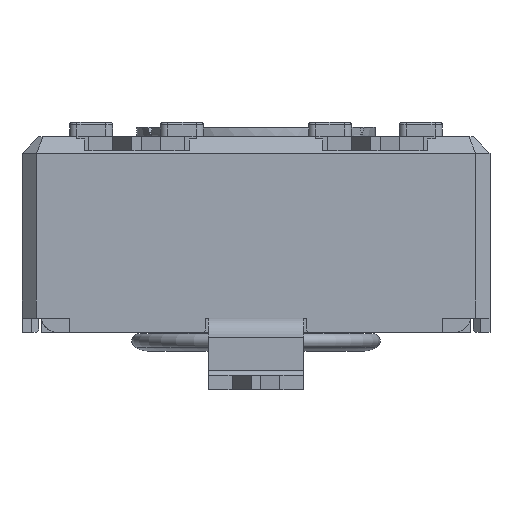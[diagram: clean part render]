
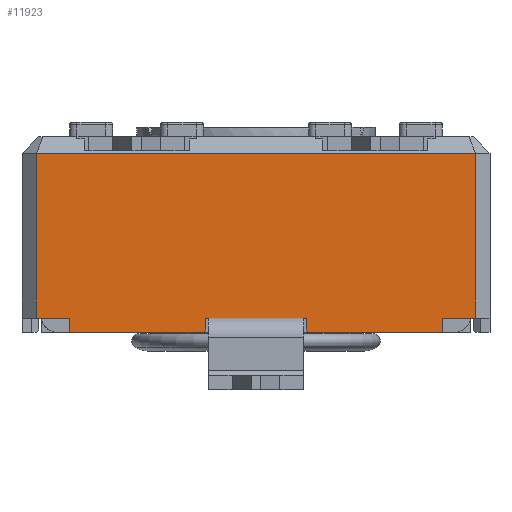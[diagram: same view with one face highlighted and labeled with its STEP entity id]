
A CAD part, front view. The second image highlights one B-rep face of the part: STEP entity #11923.
In plain terms, the highlighted planar face has unit normal (0, -1, 0).
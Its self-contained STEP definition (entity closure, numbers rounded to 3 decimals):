
#1037=FACE_OUTER_BOUND('',#1652,.T.);
#1652=EDGE_LOOP('',(#10510,#10511,#10512,#10513,#10514,#10515,#10516,#10517,
#10518,#10519,#10520,#10521,#10522,#10523,#10524,#10525));
#1729=LINE('',#16083,#3121);
#2338=LINE('',#17544,#3730);
#2344=LINE('',#17556,#3736);
#2352=LINE('',#17572,#3744);
#2358=LINE('',#17583,#3750);
#2522=LINE('',#18104,#3914);
#2528=LINE('',#18114,#3920);
#2531=LINE('',#18121,#3923);
#2544=LINE('',#18146,#3936);
#2600=LINE('',#18254,#3992);
#2602=LINE('',#18259,#3994);
#2604=LINE('',#18262,#3996);
#2606=LINE('',#18267,#3998);
#2792=LINE('',#18712,#4184);
#3035=LINE('',#19273,#4427);
#3037=LINE('',#19280,#4429);
#3121=VECTOR('',#12941,10.);
#3730=VECTOR('',#14230,10.);
#3736=VECTOR('',#14236,10.);
#3744=VECTOR('',#14246,10.);
#3750=VECTOR('',#14252,10.);
#3914=VECTOR('',#14724,10.);
#3920=VECTOR('',#14732,10.);
#3923=VECTOR('',#14739,10.);
#3936=VECTOR('',#14760,10.);
#3992=VECTOR('',#14860,10.);
#3994=VECTOR('',#14868,10.);
#3996=VECTOR('',#14872,10.);
#3998=VECTOR('',#14880,10.);
#4184=VECTOR('',#15304,10.);
#4427=VECTOR('',#15843,10.);
#4429=VECTOR('',#15855,10.);
#4493=VERTEX_POINT('',#16035);
#4506=VERTEX_POINT('',#16082);
#5018=VERTEX_POINT('',#17543);
#5023=VERTEX_POINT('',#17553);
#5024=VERTEX_POINT('',#17555);
#5030=VERTEX_POINT('',#17569);
#5031=VERTEX_POINT('',#17571);
#5036=VERTEX_POINT('',#17581);
#5184=VERTEX_POINT('',#18102);
#5185=VERTEX_POINT('',#18103);
#5188=VERTEX_POINT('',#18112);
#5189=VERTEX_POINT('',#18119);
#5190=VERTEX_POINT('',#18120);
#5198=VERTEX_POINT('',#18145);
#5343=VERTEX_POINT('',#18709);
#5344=VERTEX_POINT('',#18711);
#5608=EDGE_CURVE('',#4506,#4493,#1729,.T.);
#6343=EDGE_CURVE('',#5018,#4506,#2338,.T.);
#6349=EDGE_CURVE('',#5024,#5023,#2344,.T.);
#6357=EDGE_CURVE('',#5031,#5030,#2352,.T.);
#6363=EDGE_CURVE('',#4493,#5036,#2358,.T.);
#6605=EDGE_CURVE('',#5184,#5185,#2522,.T.);
#6611=EDGE_CURVE('',#5184,#5188,#2528,.T.);
#6614=EDGE_CURVE('',#5189,#5190,#2531,.T.);
#6627=EDGE_CURVE('',#5198,#5190,#2544,.T.);
#6683=EDGE_CURVE('',#5018,#5189,#2600,.T.);
#6685=EDGE_CURVE('',#5023,#5198,#2602,.T.);
#6687=EDGE_CURVE('',#5031,#5188,#2604,.T.);
#6689=EDGE_CURVE('',#5036,#5185,#2606,.T.);
#6909=EDGE_CURVE('',#5343,#5344,#2792,.T.);
#7188=EDGE_CURVE('',#5344,#5030,#3035,.T.);
#7190=EDGE_CURVE('',#5343,#5024,#3037,.T.);
#10510=ORIENTED_EDGE('',*,*,#6605,.F.);
#10511=ORIENTED_EDGE('',*,*,#6611,.T.);
#10512=ORIENTED_EDGE('',*,*,#6687,.F.);
#10513=ORIENTED_EDGE('',*,*,#6357,.T.);
#10514=ORIENTED_EDGE('',*,*,#7188,.F.);
#10515=ORIENTED_EDGE('',*,*,#6909,.F.);
#10516=ORIENTED_EDGE('',*,*,#7190,.T.);
#10517=ORIENTED_EDGE('',*,*,#6349,.T.);
#10518=ORIENTED_EDGE('',*,*,#6685,.T.);
#10519=ORIENTED_EDGE('',*,*,#6627,.T.);
#10520=ORIENTED_EDGE('',*,*,#6614,.F.);
#10521=ORIENTED_EDGE('',*,*,#6683,.F.);
#10522=ORIENTED_EDGE('',*,*,#6343,.T.);
#10523=ORIENTED_EDGE('',*,*,#5608,.T.);
#10524=ORIENTED_EDGE('',*,*,#6363,.T.);
#10525=ORIENTED_EDGE('',*,*,#6689,.T.);
#11126=PLANE('',#12806);
#11923=ADVANCED_FACE('',(#1037),#11126,.T.);
#12806=AXIS2_PLACEMENT_3D('',#19281,#15856,#15857);
#12941=DIRECTION('',(1.,0.,0.));
#14230=DIRECTION('',(1.,0.,0.));
#14236=DIRECTION('',(1.,0.,0.));
#14246=DIRECTION('',(1.,0.,0.));
#14252=DIRECTION('',(1.,0.,0.));
#14724=DIRECTION('',(-0.707,0.,0.707));
#14732=DIRECTION('',(1.,0.,0.));
#14739=DIRECTION('',(-0.707,0.,-0.707));
#14760=DIRECTION('',(1.,0.,0.));
#14860=DIRECTION('',(0.,0.,-1.));
#14868=DIRECTION('',(0.,0.,-1.));
#14872=DIRECTION('',(0.,0.,-1.));
#14880=DIRECTION('',(0.,0.,-1.));
#15304=DIRECTION('',(1.,0.,0.));
#15843=DIRECTION('',(0.,0.,-1.));
#15855=DIRECTION('',(0.,0.,-1.));
#15856=DIRECTION('center_axis',(0.,-1.,0.));
#15857=DIRECTION('ref_axis',(0.,0.,-1.));
#16035=CARTESIAN_POINT('',(-25.448,-17.99,-3.8));
#16082=CARTESIAN_POINT('',(-27.448,-17.99,-3.8));
#16083=CARTESIAN_POINT('',(-21.848,-17.99,-3.8));
#17543=CARTESIAN_POINT('',(-27.498,-17.99,-3.8));
#17544=CARTESIAN_POINT('',(-21.848,-17.99,-3.8));
#17553=CARTESIAN_POINT('',(-30.348,-17.99,-3.8));
#17555=CARTESIAN_POINT('',(-31.048,-17.99,-3.8));
#17556=CARTESIAN_POINT('',(-21.848,-17.99,-3.8));
#17569=CARTESIAN_POINT('',(-21.848,-17.99,-3.8));
#17571=CARTESIAN_POINT('',(-22.548,-17.99,-3.8));
#17572=CARTESIAN_POINT('',(-21.848,-17.99,-3.8));
#17581=CARTESIAN_POINT('',(-25.398,-17.99,-3.8));
#17583=CARTESIAN_POINT('',(-21.848,-17.99,-3.8));
#18102=CARTESIAN_POINT('',(-25.348,-17.99,-4.1));
#18103=CARTESIAN_POINT('',(-25.398,-17.99,-4.05));
#18104=CARTESIAN_POINT('',(-27.81,-17.99,-1.637));
#18112=CARTESIAN_POINT('',(-22.548,-17.99,-4.1));
#18114=CARTESIAN_POINT('',(-21.848,-17.99,-4.1));
#18119=CARTESIAN_POINT('',(-27.498,-17.99,-4.05));
#18120=CARTESIAN_POINT('',(-27.548,-17.99,-4.1));
#18121=CARTESIAN_POINT('',(-27.385,-17.99,-3.938));
#18145=CARTESIAN_POINT('',(-30.348,-17.99,-4.1));
#18146=CARTESIAN_POINT('',(-21.848,-17.99,-4.1));
#18254=CARTESIAN_POINT('',(-27.498,-17.99,-3.8));
#18259=CARTESIAN_POINT('',(-30.348,-17.99,-3.8));
#18262=CARTESIAN_POINT('',(-22.548,-17.99,-3.8));
#18267=CARTESIAN_POINT('',(-25.398,-17.99,-3.8));
#18709=CARTESIAN_POINT('',(-31.048,-17.99,-0.35));
#18711=CARTESIAN_POINT('',(-21.848,-17.99,-0.35));
#18712=CARTESIAN_POINT('',(-28.748,-17.99,-0.35));
#19273=CARTESIAN_POINT('',(-21.848,-17.99,0.));
#19280=CARTESIAN_POINT('',(-31.048,-17.99,0.));
#19281=CARTESIAN_POINT('Origin',(-31.048,-17.99,0.));
